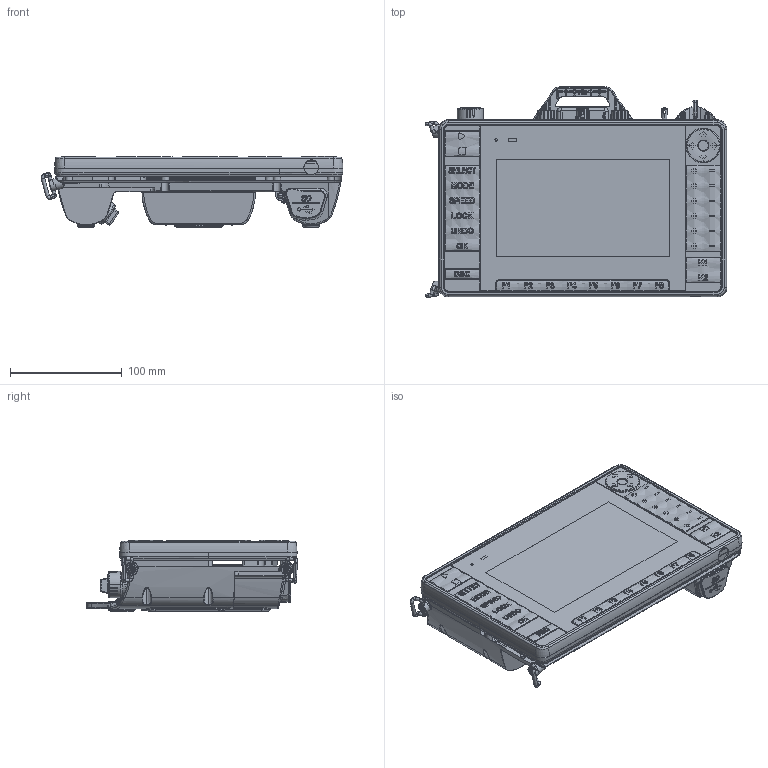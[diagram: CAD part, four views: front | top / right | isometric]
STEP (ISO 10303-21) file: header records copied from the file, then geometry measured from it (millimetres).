
FILE_DESCRIPTION (( 'STEP AP203' ), '1' );
FILE_NAME ('X7 Wired full.STEP', '2024-09-19T08:21:05', ( '' ), ( '' ), 'SwSTEP 2.0', 'SolidWorks 2024', '' );
FILE_SCHEMA (( 'CONFIG_CONTROL_DESIGN' ));
Products named in the file (1): X7 Wired full
Bounding box: 270 x 188.72 x 64.06 mm (x, y, z)
Volume: 1465976.7 mm3; surface area: 180016.2 mm2
Topology: 2 solids, 21 shells, 7801 faces, 19602 edges, 11830 vertices
Faces by surface type: bspline 2838, plane 2461, cylinder 1375, torus 535, cone 373, sphere 219
Entity records: 334764 total; most frequent: CARTESIAN_POINT 174354, ORIENTED_EDGE 38630, DIRECTION 25911, EDGE_CURVE 19315, VERTEX_POINT 11830, AXIS2_PLACEMENT_3D 9571, EDGE_LOOP 8127, ADVANCED_FACE 7801
